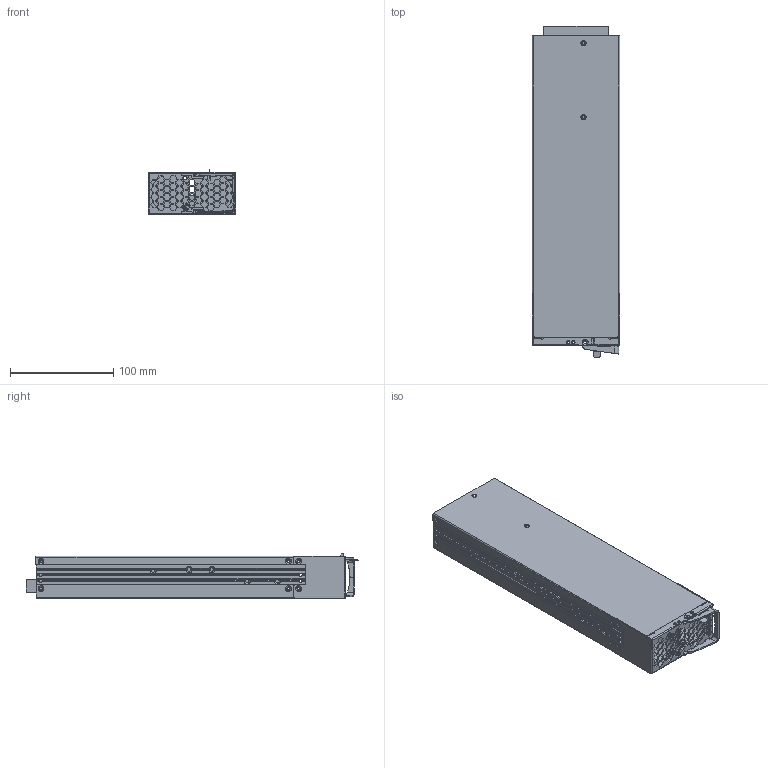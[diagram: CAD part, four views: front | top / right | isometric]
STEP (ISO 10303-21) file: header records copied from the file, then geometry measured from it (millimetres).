
FILE_DESCRIPTION((''),'2;1');
FILE_NAME('ASM0014_ASM','2023-04-17T',('Vincent.Kao'),(''),'CREO PARAMETRIC BY PTC INC, 2016260','CREO PARAMETRIC BY PTC INC, 2016260','');
FILE_SCHEMA(('AUTOMOTIVE_DESIGN { 1 0 10303 214 1 1 1 1 }'));
Length unit declared in the file: millimetre
Products named in the file (32): VR_1; V; TR-4RL; TR-4RL_STP_ASM; MOS_ASM; HS; SS; FN; MHL-24; MHL-24_STP_ASM; A1-367660; A1_3; 952_1_ASM; B-2; _X2_628A624B_X0_B_ASM; A1-358530_ASM; M3-7L_1; _S_JU_S____ASM; A1-382660_ASM; P7_1; C-C_ASM; P7_1_1; B_X2_55AE6A5F_X0_; B_X2_55AE6A5F_X0__1; B_X2_55AE6A5F_X0__1_1; C-B_ASM; A2_ASM; E32; A2_1_ASM; _X2_55AE6A5F_X0__1_1_1_1_ASM; RCP-1600_ASM; ASM0014_ASM
Assembly tree (34 placements, depth 7):
  ASM0014_ASM
    RCP-1600_ASM
      _X2_55AE6A5F_X0__1_1_1_1_ASM
        VR_1  x2
        V
        A1-382660_ASM
          MOS_ASM
            TR-4RL_STP_ASM
              TR-4RL
          952_1_ASM
            HS
            SS
            FN  x2
            MHL-24_STP_ASM
              MHL-24
            A1-367660
            A1_3
          A1-358530_ASM
            _X2_628A624B_X0_B_ASM
              B-2
          _S_JU_S____ASM
            M3-7L_1
        A2_ASM
          C-C_ASM
            P7_1
          C-B_ASM
            P7_1
            P7_1_1
            B_X2_55AE6A5F_X0_
            B_X2_55AE6A5F_X0__1
            B_X2_55AE6A5F_X0__1_1
        A2_1_ASM
          E32
Bounding box: 85 x 321.79 x 43.1 mm (x, y, z)
Volume: 211336.4 mm3; surface area: 265191.1 mm2
Topology: 14 solids, 14 shells, 1193 faces, 3437 edges, 2265 vertices
Faces by surface type: plane 691, cylinder 387, cone 96, torus 16, bspline 3
Entity records: 50053 total; most frequent: CARTESIAN_POINT 7957, ORIENTED_EDGE 6580, DIRECTION 6343, PRESENTATION_STYLE_ASSIGNMENT 3304, STYLED_ITEM 3301, CURVE_STYLE 3290, EDGE_CURVE 3290, VECTOR 2247
